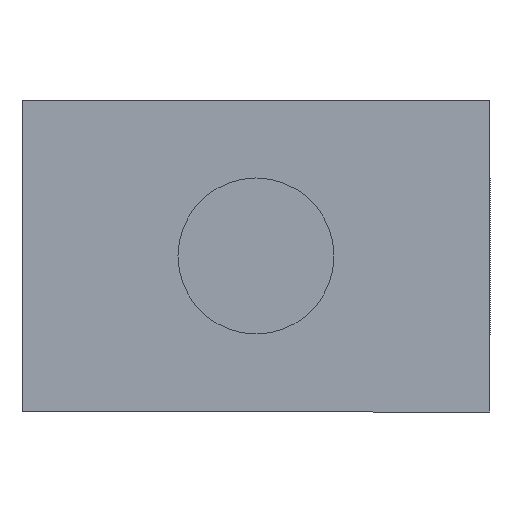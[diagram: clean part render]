
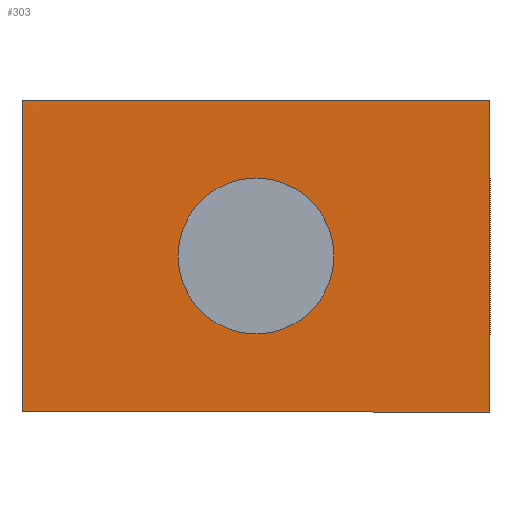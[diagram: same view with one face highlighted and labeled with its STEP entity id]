
A CAD part, left-side view. The second image highlights one B-rep face of the part: STEP entity #303.
In plain terms, the highlighted planar face has unit normal (-1, 0, 0).
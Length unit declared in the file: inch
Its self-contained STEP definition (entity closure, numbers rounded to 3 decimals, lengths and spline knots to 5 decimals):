
#13 = CARTESIAN_POINT ( 'NONE',  ( 0., 0.32407, 0.19753 ) ) ;
#21 = DIRECTION ( 'NONE',  ( 0., -1., 0. ) ) ;
#22 = VERTEX_POINT ( 'NONE', #43 ) ;
#28 = LINE ( 'NONE', #550, #229 ) ;
#29 = PLANE ( 'NONE',  #568 ) ;
#36 = DIRECTION ( 'NONE',  ( -1., 0., 0. ) ) ;
#43 = CARTESIAN_POINT ( 'NONE',  ( 0., -0.42593, -0.30247 ) ) ;
#77 = CARTESIAN_POINT ( 'NONE',  ( 0., -0.05093, 0.07253 ) ) ;
#92 = FACE_BOUND ( 'NONE', #98, .T. ) ;
#96 = LINE ( 'NONE', #511, #562 ) ;
#98 = EDGE_LOOP ( 'NONE', ( #553, #559 ) ) ;
#101 = CARTESIAN_POINT ( 'NONE',  ( 0., 0.32407, -0.30247 ) ) ;
#103 = CARTESIAN_POINT ( 'NONE',  ( 0., -0.42593, 0.19753 ) ) ;
#113 = CARTESIAN_POINT ( 'NONE',  ( 0., 0.32407, 0.19753 ) ) ;
#115 = VERTEX_POINT ( 'NONE', #13 ) ;
#119 = CARTESIAN_POINT ( 'NONE',  ( 0., 0.32407, -0.30247 ) ) ;
#120 = DIRECTION ( 'NONE',  ( 1., 0., 0. ) ) ;
#138 = ORIENTED_EDGE ( 'NONE', *, *, #357, .F. ) ;
#151 = CARTESIAN_POINT ( 'NONE',  ( 0., -0.05093, -0.17747 ) ) ;
#168 = EDGE_CURVE ( 'NONE', #525, #244, #515, .T. ) ;
#173 = EDGE_CURVE ( 'NONE', #244, #525, #452, .T. ) ;
#180 = VECTOR ( 'NONE', #260, 39.37008 ) ;
#181 = DIRECTION ( 'NONE',  ( -1., 0., 0. ) ) ;
#229 = VECTOR ( 'NONE', #367, 39.37008 ) ;
#244 = VERTEX_POINT ( 'NONE', #77 ) ;
#248 = EDGE_LOOP ( 'NONE', ( #138, #439, #582, #548 ) ) ;
#260 = DIRECTION ( 'NONE',  ( 0., 1., 0. ) ) ;
#275 = LINE ( 'NONE', #113, #322 ) ;
#291 = DIRECTION ( 'NONE',  ( 0., 0., -1. ) ) ;
#303 = ADVANCED_FACE ( 'NONE', ( #92, #549 ), #29, .F. ) ;
#310 = DIRECTION ( 'NONE',  ( 0., 0., 1. ) ) ;
#322 = VECTOR ( 'NONE', #21, 39.37008 ) ;
#328 = EDGE_CURVE ( 'NONE', #22, #509, #395, .T. ) ;
#351 = CARTESIAN_POINT ( 'NONE',  ( 0., -0.05093, -0.05247 ) ) ;
#357 = EDGE_CURVE ( 'NONE', #115, #490, #275, .T. ) ;
#367 = DIRECTION ( 'NONE',  ( 0., 0., 1. ) ) ;
#393 = CARTESIAN_POINT ( 'NONE',  ( 0., 0., 0. ) ) ;
#395 = LINE ( 'NONE', #119, #180 ) ;
#436 = DIRECTION ( 'NONE',  ( 0., 0., 1. ) ) ;
#439 = ORIENTED_EDGE ( 'NONE', *, *, #551, .F. ) ;
#445 = AXIS2_PLACEMENT_3D ( 'NONE', #351, #36, #310 ) ;
#452 = CIRCLE ( 'NONE', #445, 0.125 ) ;
#467 = EDGE_CURVE ( 'NONE', #490, #22, #96, .T. ) ;
#480 = CARTESIAN_POINT ( 'NONE',  ( 0., -0.05093, -0.05247 ) ) ;
#490 = VERTEX_POINT ( 'NONE', #103 ) ;
#509 = VERTEX_POINT ( 'NONE', #101 ) ;
#511 = CARTESIAN_POINT ( 'NONE',  ( 0., -0.42593, 0.19753 ) ) ;
#515 = CIRCLE ( 'NONE', #547, 0.125 ) ;
#525 = VERTEX_POINT ( 'NONE', #151 ) ;
#547 = AXIS2_PLACEMENT_3D ( 'NONE', #480, #181, #436 ) ;
#548 = ORIENTED_EDGE ( 'NONE', *, *, #467, .F. ) ;
#549 = FACE_OUTER_BOUND ( 'NONE', #248, .T. ) ;
#550 = CARTESIAN_POINT ( 'NONE',  ( 0., 0.32407, 0.19753 ) ) ;
#551 = EDGE_CURVE ( 'NONE', #509, #115, #28, .T. ) ;
#553 = ORIENTED_EDGE ( 'NONE', *, *, #168, .F. ) ;
#559 = ORIENTED_EDGE ( 'NONE', *, *, #173, .F. ) ;
#562 = VECTOR ( 'NONE', #291, 39.37008 ) ;
#568 = AXIS2_PLACEMENT_3D ( 'NONE', #393, #120, #573 ) ;
#573 = DIRECTION ( 'NONE',  ( 0., 0., -1. ) ) ;
#582 = ORIENTED_EDGE ( 'NONE', *, *, #328, .F. ) ;
